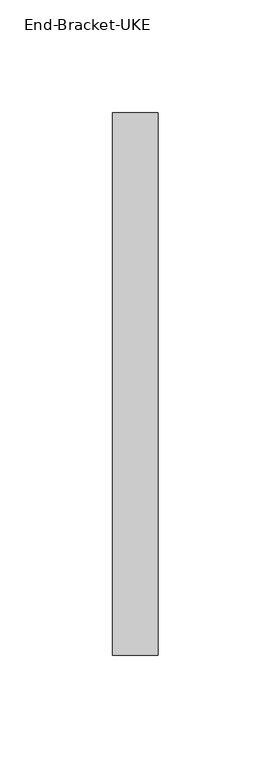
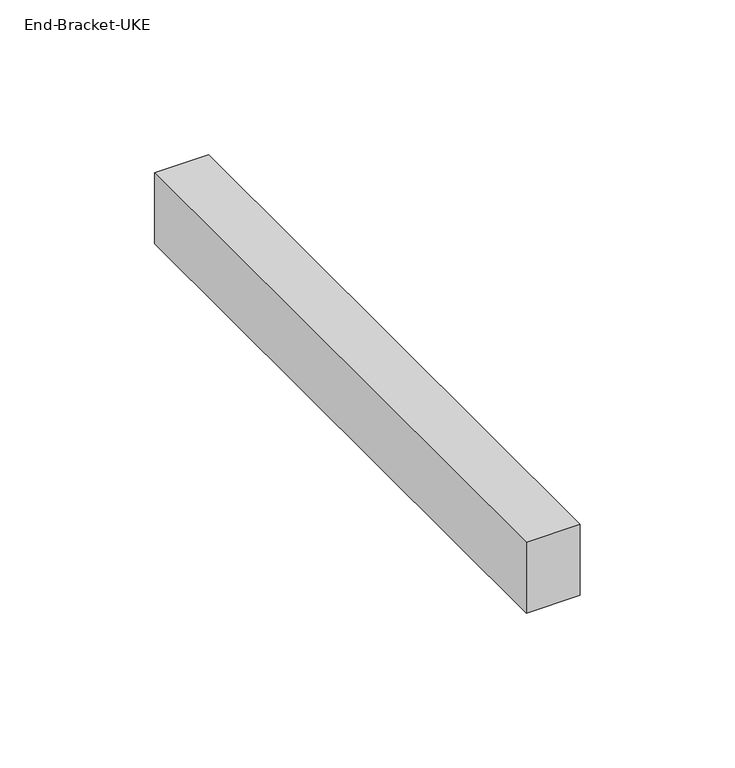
"""IFC4 building model written with IfcOpenShell, lengths in millimetres: cable carrier fitting geometry, Electrical-Installations_Hager_End-Bracket-UKE : End-Bracket-UKE."""

import ifcopenshell
import ifcopenshell.guid

model = None  # the IFC model being written
_history = None  # IfcOwnerHistory: only IFC2X3 demands one
_inside = {}  # id of a spatial element -> (the spatial element, [elements in it])
_under = {}  # id of a project, library or spatial element -> (it, [spatial elements below it])
_declared = {}  # id of a project -> (the project, [libraries it declares])
_typed = {}  # id of a type object -> (the type object, [elements of that type])
_made_of = {}  # id of a material, layer set ... -> (it, [elements and type objects made of it])


def new_model(schema):
    """Start an empty IFC model of exactly this schema.

    Asked for "IFC4X3", IfcOpenShell would pick the latest addendum, in which some entities
    have other attributes; the version numbers below select the first issue.
    IFC2X3 requires an IfcOwnerHistory on every rooted entity: one is made here for all.
    """
    global model, _history
    if schema == "IFC4X3":
        model = ifcopenshell.file(schema_version=(4, 3, 0, 0))
    else:
        model = ifcopenshell.file(schema=schema)
    _inside.clear()
    _under.clear()
    _declared.clear()
    _typed.clear()
    _made_of.clear()
    _history = None
    if model.schema == "IFC2X3":
        org = make("IfcOrganization", Name="unknown")
        user = make(
            "IfcPersonAndOrganization",
            ThePerson=make("IfcPerson", FamilyName="unknown"),
            TheOrganization=org,
        )
        app = make(
            "IfcApplication",
            ApplicationDeveloper=org,
            Version="unknown",
            ApplicationFullName="unknown",
            ApplicationIdentifier="unknown",
        )
        _history = make(
            "IfcOwnerHistory",
            OwningUser=user,
            OwningApplication=app,
            ChangeAction="ADDED",
            CreationDate=0,
        )
    return model


def make(cls, **values):
    """One entity of the class cls with the attributes given. An attribute that is None is left unset."""
    return model.create_entity(
        cls, **{name: value for name, value in values.items() if value is not None}
    )


def rooted(cls, **values):
    """An entity with a GlobalId (a new one), such as an element, a storey or a relation."""
    return make(cls, GlobalId=ifcopenshell.guid.new(), OwnerHistory=_history, **values)


def si_unit(unit_type, name, prefix=None):
    """IfcSIUnit, for example si_unit("LENGTHUNIT", "METRE", prefix="MILLI")."""
    return make("IfcSIUnit", UnitType=unit_type, Prefix=prefix, Name=name)


def assignment(units):
    """IfcUnitAssignment: the units of a project."""
    return None if units is None else make("IfcUnitAssignment", Units=units)


def point(xyz):
    """IfcCartesianPoint."""
    return None if xyz is None else make("IfcCartesianPoint", Coordinates=xyz)


def direction(xyz):
    """IfcDirection."""
    return None if xyz is None else make("IfcDirection", DirectionRatios=xyz)


def frame(location, z_axis=None, x_axis=None):
    """IfcAxis2Placement3D, a coordinate frame: its origin and axes. An axis left out is left unset."""
    return make(
        "IfcAxis2Placement3D",
        Location=point(location),
        Axis=direction(z_axis),
        RefDirection=direction(x_axis),
    )


def origin():
    """The frame at (0, 0, 0) with its axes left unset."""
    return frame((0.0, 0.0, 0.0))


def place(relative_to, where):
    """IfcLocalPlacement: puts the frame where relative to a parent placement (None: the world)."""
    return make(
        "IfcLocalPlacement", PlacementRelTo=relative_to, RelativePlacement=where
    )


def context(
    kind, dimensions, precision=None, world=None, true_north=None, identifier=None
):
    """IfcGeometricRepresentationContext, for example the 3D "Model" context."""
    return make(
        "IfcGeometricRepresentationContext",
        ContextIdentifier=identifier,
        ContextType=kind,
        CoordinateSpaceDimension=dimensions,
        Precision=precision,
        WorldCoordinateSystem=world,
        TrueNorth=true_north,
    )


def project(units=None, contexts=None):
    """IfcProject with its units and contexts."""
    return rooted(
        "IfcProject",
        Name="project",
        RepresentationContexts=contexts,
        UnitsInContext=assignment(units),
    )


def spatial(cls, under=None, at=None, **own):
    """A site, building, storey or space (cls), placed at a placement, below another one or the project."""
    s = rooted(cls, ObjectPlacement=at, **own)
    if under is not None:
        _under.setdefault(under.id(), (under, []))[1].append(s)
    return s


def polyline(points):
    """IfcPolyline through the points."""
    return make("IfcPolyline", Points=[point(p) for p in points])


def outline(outer, holes=None, kind="AREA"):
    """IfcArbitraryClosedProfileDef: a profile drawn as a closed curve; with holes, ...WithVoids."""
    if holes is None:
        return make("IfcArbitraryClosedProfileDef", ProfileType=kind, OuterCurve=outer)
    return make(
        "IfcArbitraryProfileDefWithVoids",
        ProfileType=kind,
        OuterCurve=outer,
        InnerCurves=holes,
    )


def extrude(swept, where, along, depth):
    """IfcExtrudedAreaSolid: the profile swept, set in the frame where, extruded along a direction by depth."""
    return make(
        "IfcExtrudedAreaSolid",
        SweptArea=swept,
        Position=where,
        ExtrudedDirection=direction(along),
        Depth=depth,
    )


def shape(context_of_items, identifier, shape_type, items):
    """IfcShapeRepresentation: the items that make up one representation, for example the "Body"."""
    return make(
        "IfcShapeRepresentation",
        ContextOfItems=context_of_items,
        RepresentationIdentifier=identifier,
        RepresentationType=shape_type,
        Items=items,
    )


def source(mapping_origin, context_of_items, identifier, shape_type, items):
    """IfcRepresentationMap: a shape defined once, which mapped items show again and again."""
    return make(
        "IfcRepresentationMap",
        MappingOrigin=mapping_origin,
        MappedRepresentation=shape(context_of_items, identifier, shape_type, items),
    )


def transform(
    local_origin,
    x_axis=None,
    y_axis=None,
    z_axis=None,
    scale=None,
    scale2=None,
    scale3=None,
    uniform=True,
):
    """IfcCartesianTransformationOperator3D, or its non-uniform kind. x_axis, y_axis, z_axis: its Axis1, 2, 3."""
    if uniform:
        return make(
            "IfcCartesianTransformationOperator3D",
            Axis1=direction(x_axis),
            Axis2=direction(y_axis),
            LocalOrigin=point(local_origin),
            Scale=scale,
            Axis3=direction(z_axis),
        )
    return make(
        "IfcCartesianTransformationOperator3DnonUniform",
        Axis1=direction(x_axis),
        Axis2=direction(y_axis),
        LocalOrigin=point(local_origin),
        Scale=scale,
        Axis3=direction(z_axis),
        Scale2=scale2,
        Scale3=scale3,
    )


def mapped(mapping_source, mapping_target):
    """IfcMappedItem: shows the shape of a source again, moved by a transform."""
    return make(
        "IfcMappedItem", MappingSource=mapping_source, MappingTarget=mapping_target
    )


def made_of(thing, what):
    """Note that an element or type object is made of a material, layer set ...; save() writes the relation."""
    if what is not None:
        _made_of.setdefault(what.id(), (what, []))[1].append(thing)
    return thing


def element(
    cls,
    number,
    at=None,
    inside=None,
    cuts=None,
    type_object=None,
    material=None,
    context=None,
    identifier="Body",
    shape_type=None,
    held_by="IfcProductDefinitionShape",
    body=None,
    shapes=None,
    **own,
):
    """One element of the class cls, such as IfcWall. Its Tag is "e" and its number.

    at: its placement. inside: the storey or other place that contains it. cuts: it is an
    opening in that element (IfcRelVoidsElement). A single representation is given by context,
    identifier, shape_type and body (its items); several are given by shapes. held_by: the class
    of the entity that holds the representations. save() writes the other relations.
    """
    e = rooted(cls, Tag="e%d" % number, ObjectPlacement=at, **own)
    if body is not None:
        shapes = [shape(context, identifier, shape_type, body)]
    if shapes is not None:
        e.Representation = make(held_by, Representations=shapes)
    if inside is not None:
        _inside.setdefault(inside.id(), (inside, []))[1].append(e)
    if cuts is not None:
        rooted(
            "IfcRelVoidsElement", RelatingBuildingElement=cuts, RelatedOpeningElement=e
        )
    if type_object is not None:
        _typed.setdefault(type_object.id(), (type_object, []))[1].append(e)
    return made_of(e, material)


def aggregate(whole, parts):
    """IfcRelAggregates: a whole, such as a stair, and the parts it consists of."""
    return rooted("IfcRelAggregates", RelatingObject=whole, RelatedObjects=parts)


def save(model, path):
    """Write the relations noted so far, then the file.

    IfcRelAggregates (storeys below a building ...), IfcRelContainedInSpatialStructure (elements
    in a storey), IfcRelDefinesByType, IfcRelAssociatesMaterial and IfcRelDeclares: one each for
    every whole, place, type object, material and project.
    """
    for whole, parts in _under.values():
        aggregate(whole, parts)
    for where, things in _inside.values():
        rooted(
            "IfcRelContainedInSpatialStructure",
            RelatedElements=things,
            RelatingStructure=where,
        )
    for kind, things in _typed.values():
        rooted("IfcRelDefinesByType", RelatedObjects=things, RelatingType=kind)
    for what, things in _made_of.values():
        rooted("IfcRelAssociatesMaterial", RelatedObjects=things, RelatingMaterial=what)
    for by, libraries in _declared.values():
        rooted("IfcRelDeclares", RelatingContext=by, RelatedDefinitions=libraries)
    model.write(path)


def end_bracket_uke_6d4a283f(model_context):
    return source(origin(), model_context, "Body", "SweptSolid", [
        extrude(outline(polyline([(0.0, -120.0), (0.0, 120.0), (20.0, 120.0), (20.0, -120.0), (0.0, -120.0)])), frame((0.0, 0.0, -14.0), z_axis=(0.0, 0.0, 1.0), x_axis=(1.0, 0.0, 0.0)), (0.0, 0.0, 1.0), 28.0),
    ])


if __name__ == "__main__":
    model = new_model("IFC4")
    model_context = context("Model", 3, world=origin())
    ifc_project = project(units=[si_unit("LENGTHUNIT", "METRE", prefix="MILLI")], contexts=[model_context])
    site = spatial("IfcSite", under=ifc_project)
    building = spatial("IfcBuilding", under=site)
    placement = place(None, origin())
    end_bracket_uke_shape = end_bracket_uke_6d4a283f(model_context)
    element("IfcCableCarrierFitting", 1, ObjectType="Electrical-Installations_Hager_End-Bracket-UKE : End-Bracket-UKE", at=placement, inside=building, context=model_context, shape_type="MappedRepresentation", body=[
        mapped(end_bracket_uke_shape, transform((0.0, 0.0, 0.0), x_axis=(1.0, 0.0, 0.0), y_axis=(0.0, 1.0, 0.0), z_axis=(0.0, 0.0, 1.0))),
    ])
    save(model, "model.ifc")
